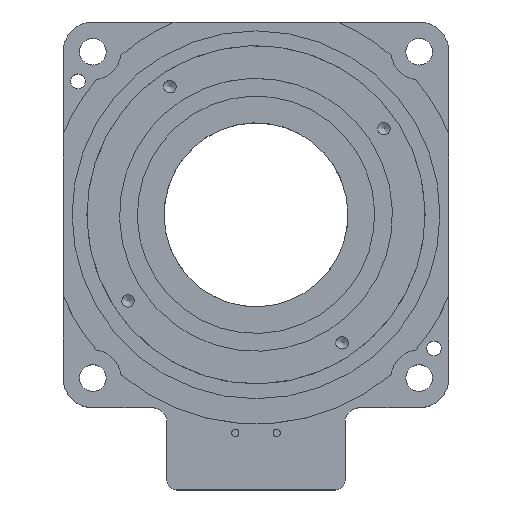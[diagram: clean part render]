
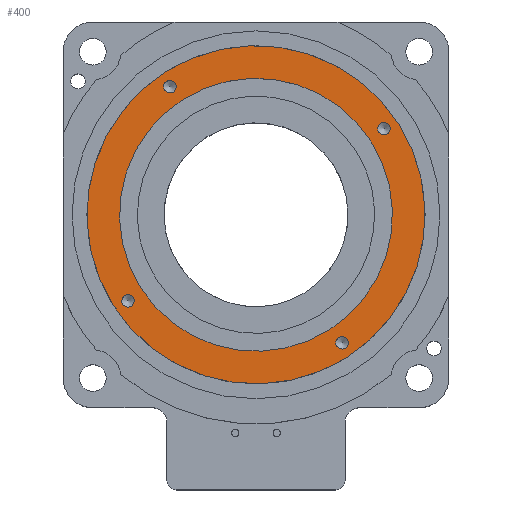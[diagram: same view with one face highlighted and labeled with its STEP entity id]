
A CAD part, top view. The second image highlights one B-rep face of the part: STEP entity #400.
In plain terms, the highlighted planar face has unit normal (0, 0, 1) as drawn and (-1, 0, 0) by its records, which use the part's own axes.
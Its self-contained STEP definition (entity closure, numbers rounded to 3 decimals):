
#211 = DIRECTION ( 'NONE',  ( -1., 0., 0. ) ) ;
#213 = DIRECTION ( 'NONE',  ( -1., 0., 0. ) ) ;
#221 = CIRCLE ( 'NONE', #1032, 2.1 ) ;
#238 = DIRECTION ( 'NONE',  ( 0., 0., 1. ) ) ;
#287 = CARTESIAN_POINT ( 'NONE',  ( 0., 0., 0. ) ) ;
#380 = FACE_BOUND ( 'NONE', #752, .T. ) ;
#400 = ADVANCED_FACE ( 'NONE', ( #3899, #380, #1256, #2261, #3283, #1944 ), #2211, .T. ) ;
#618 = AXIS2_PLACEMENT_3D ( 'NONE', #1573, #4185, #3710 ) ;
#700 = CARTESIAN_POINT ( 'NONE',  ( 0., 0., 0. ) ) ;
#702 = CARTESIAN_POINT ( 'NONE',  ( 0., 49.372, 16.323 ) ) ;
#728 = DIRECTION ( 'NONE',  ( -1., 0., 0. ) ) ;
#752 = EDGE_LOOP ( 'NONE', ( #1038 ) ) ;
#771 = EDGE_LOOP ( 'NONE', ( #4091 ) ) ;
#879 = CIRCLE ( 'NONE', #2391, 2.1 ) ;
#930 = DIRECTION ( 'NONE',  ( 0., 0., 1. ) ) ;
#1032 = AXIS2_PLACEMENT_3D ( 'NONE', #4551, #4077, #3607 ) ;
#1038 = ORIENTED_EDGE ( 'NONE', *, *, #2325, .F. ) ;
#1216 = EDGE_CURVE ( 'NONE', #3753, #3753, #879, .T. ) ;
#1228 = CARTESIAN_POINT ( 'NONE',  ( 0., -49.372, -16.323 ) ) ;
#1256 = FACE_BOUND ( 'NONE', #2795, .T. ) ;
#1344 = ORIENTED_EDGE ( 'NONE', *, *, #2835, .F. ) ;
#1427 = DIRECTION ( 'NONE',  ( -1., 0., 0. ) ) ;
#1573 = CARTESIAN_POINT ( 'NONE',  ( 0., 16.323, -49.372 ) ) ;
#1879 = ORIENTED_EDGE ( 'NONE', *, *, #1216, .F. ) ;
#1913 = EDGE_CURVE ( 'NONE', #2776, #2776, #2620, .T. ) ;
#1944 = FACE_BOUND ( 'NONE', #2880, .T. ) ;
#1991 = CARTESIAN_POINT ( 'NONE',  ( 0., 0., 46. ) ) ;
#2101 = CARTESIAN_POINT ( 'NONE',  ( 0., 49.372, 18.423 ) ) ;
#2211 = PLANE ( 'NONE',  #3725 ) ;
#2254 = EDGE_CURVE ( 'NONE', #3433, #3433, #3277, .T. ) ;
#2261 = FACE_BOUND ( 'NONE', #2777, .T. ) ;
#2321 = CARTESIAN_POINT ( 'NONE',  ( 0., 16.323, -47.272 ) ) ;
#2325 = EDGE_CURVE ( 'NONE', #2560, #2560, #3614, .T. ) ;
#2391 = AXIS2_PLACEMENT_3D ( 'NONE', #1228, #728, #238 ) ;
#2461 = VERTEX_POINT ( 'NONE', #1991 ) ;
#2529 = CARTESIAN_POINT ( 'NONE',  ( 0., -16.323, 51.472 ) ) ;
#2560 = VERTEX_POINT ( 'NONE', #2101 ) ;
#2620 = CIRCLE ( 'NONE', #618, 2.1 ) ;
#2776 = VERTEX_POINT ( 'NONE', #2321 ) ;
#2777 = EDGE_LOOP ( 'NONE', ( #1879 ) ) ;
#2795 = EDGE_LOOP ( 'NONE', ( #3794 ) ) ;
#2835 = EDGE_CURVE ( 'NONE', #2461, #2461, #3305, .T. ) ;
#2880 = EDGE_LOOP ( 'NONE', ( #1344 ) ) ;
#2968 = VERTEX_POINT ( 'NONE', #2529 ) ;
#2999 = CARTESIAN_POINT ( 'NONE',  ( 0., 0., 57. ) ) ;
#3146 = AXIS2_PLACEMENT_3D ( 'NONE', #3227, #1427, #930 ) ;
#3157 = EDGE_LOOP ( 'NONE', ( #3505 ) ) ;
#3227 = CARTESIAN_POINT ( 'NONE',  ( 0., 0., 0. ) ) ;
#3277 = CIRCLE ( 'NONE', #3146, 57. ) ;
#3283 = FACE_OUTER_BOUND ( 'NONE', #3157, .T. ) ;
#3305 = CIRCLE ( 'NONE', #4327, 46. ) ;
#3309 = CARTESIAN_POINT ( 'NONE',  ( 0., -49.372, -14.223 ) ) ;
#3433 = VERTEX_POINT ( 'NONE', #2999 ) ;
#3505 = ORIENTED_EDGE ( 'NONE', *, *, #2254, .T. ) ;
#3607 = DIRECTION ( 'NONE',  ( 0., 0., 1. ) ) ;
#3614 = CIRCLE ( 'NONE', #4409, 2.1 ) ;
#3710 = DIRECTION ( 'NONE',  ( 0., 0., 1. ) ) ;
#3725 = AXIS2_PLACEMENT_3D ( 'NONE', #287, #4373, #3882 ) ;
#3753 = VERTEX_POINT ( 'NONE', #3309 ) ;
#3794 = ORIENTED_EDGE ( 'NONE', *, *, #3853, .F. ) ;
#3853 = EDGE_CURVE ( 'NONE', #2968, #2968, #221, .T. ) ;
#3882 = DIRECTION ( 'NONE',  ( 0., 0., 1. ) ) ;
#3899 = FACE_BOUND ( 'NONE', #771, .T. ) ;
#4077 = DIRECTION ( 'NONE',  ( -1., 0., 0. ) ) ;
#4091 = ORIENTED_EDGE ( 'NONE', *, *, #1913, .F. ) ;
#4185 = DIRECTION ( 'NONE',  ( -1., 0., 0. ) ) ;
#4290 = DIRECTION ( 'NONE',  ( 0., 0., 1. ) ) ;
#4292 = DIRECTION ( 'NONE',  ( 0., 0., 1. ) ) ;
#4327 = AXIS2_PLACEMENT_3D ( 'NONE', #700, #211, #4290 ) ;
#4373 = DIRECTION ( 'NONE',  ( -1., 0., 0. ) ) ;
#4409 = AXIS2_PLACEMENT_3D ( 'NONE', #702, #213, #4292 ) ;
#4551 = CARTESIAN_POINT ( 'NONE',  ( 0., -16.323, 49.372 ) ) ;
